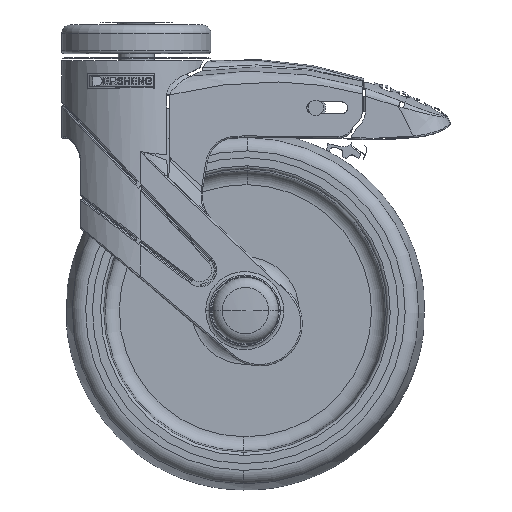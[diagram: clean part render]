
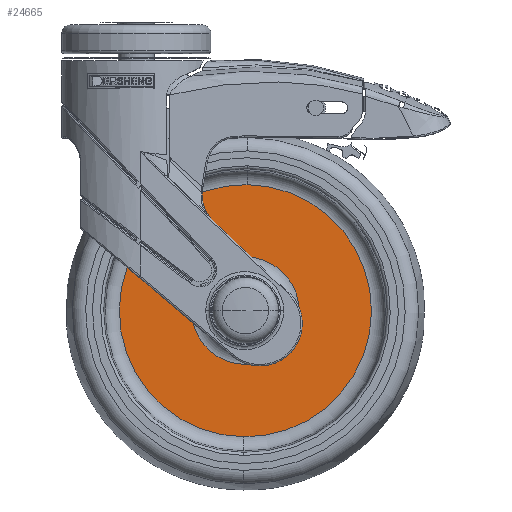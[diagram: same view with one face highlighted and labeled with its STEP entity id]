
A CAD part, top view. The second image highlights one B-rep face of the part: STEP entity #24665.
In plain terms, the highlighted planar face has unit normal (0, 0, 1).
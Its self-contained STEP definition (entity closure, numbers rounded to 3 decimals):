
#24319=CARTESIAN_POINT('',(38.,-82.3,3.25));
#24320=DIRECTION('',(0.,0.,1.));
#24321=DIRECTION('',(-0.013,-1.,0.));
#24322=AXIS2_PLACEMENT_3D('',#24319,#24320,#24321);
#24324=CARTESIAN_POINT('',(38.,-82.3,3.25));
#24325=DIRECTION('',(0.,0.,1.));
#24326=DIRECTION('',(0.013,1.,0.));
#24327=AXIS2_PLACEMENT_3D('',#24324,#24325,#24326);
#24329=CARTESIAN_POINT('',(38.,-82.3,3.25));
#24330=DIRECTION('',(0.,0.,1.));
#24331=DIRECTION('',(0.013,1.,0.));
#24332=AXIS2_PLACEMENT_3D('',#24329,#24330,#24331);
#24334=CARTESIAN_POINT('',(38.,-82.3,3.25));
#24335=DIRECTION('',(0.,0.,1.));
#24336=DIRECTION('',(-0.013,-1.,0.));
#24337=AXIS2_PLACEMENT_3D('',#24334,#24335,#24336);
#24573=CARTESIAN_POINT('',(37.434,-126.196,3.25));
#24574=CARTESIAN_POINT('',(38.566,-38.404,3.25));
#24575=VERTEX_POINT('',#24573);
#24576=VERTEX_POINT('',#24574);
#24609=CARTESIAN_POINT('',(38.241,-63.619,3.25));
#24610=CARTESIAN_POINT('',(37.759,-100.981,3.25));
#24611=VERTEX_POINT('',#24609);
#24612=VERTEX_POINT('',#24610);
#24648=CARTESIAN_POINT('',(38.,-82.3,3.25));
#24649=DIRECTION('',(0.,0.,1.));
#24650=DIRECTION('',(-0.013,-1.,0.));
#24651=AXIS2_PLACEMENT_3D('',#24648,#24649,#24650);
#24652=PLANE('',#24651);
#24654=ORIENTED_EDGE('',*,*,#24653,.F.);
#24656=ORIENTED_EDGE('',*,*,#24655,.F.);
#24657=EDGE_LOOP('',(#24654,#24656));
#24658=FACE_OUTER_BOUND('',#24657,.F.);
#24660=ORIENTED_EDGE('',*,*,#24659,.T.);
#24662=ORIENTED_EDGE('',*,*,#24661,.T.);
#24663=EDGE_LOOP('',(#24660,#24662));
#24664=FACE_BOUND('',#24663,.F.);
#24323=CIRCLE('',#24322,43.899);
#24328=CIRCLE('',#24327,43.899);
#24333=CIRCLE('',#24332,18.683);
#24338=CIRCLE('',#24337,18.683);
#24653=EDGE_CURVE('',#24575,#24576,#24323,.T.);
#24655=EDGE_CURVE('',#24576,#24575,#24328,.T.);
#24659=EDGE_CURVE('',#24611,#24612,#24333,.T.);
#24661=EDGE_CURVE('',#24612,#24611,#24338,.T.);
#24665=ADVANCED_FACE('',(#24658,#24664),#24652,.T.);
